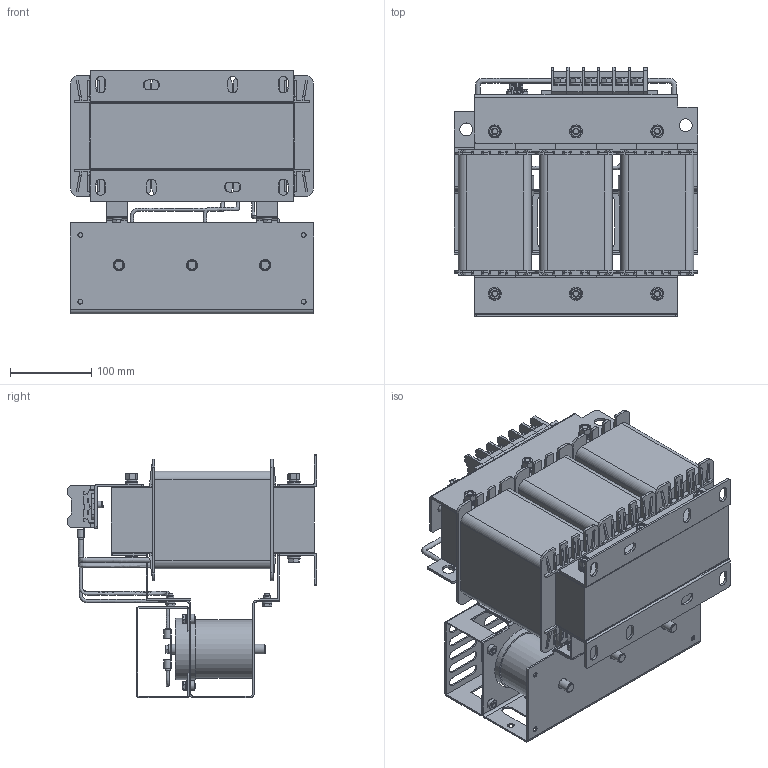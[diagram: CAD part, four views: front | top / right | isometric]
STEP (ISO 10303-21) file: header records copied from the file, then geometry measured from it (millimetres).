
FILE_DESCRIPTION(('STEP AP203'), '1');
FILE_NAME('蔓躅漤铋 耔眢耥 翳朦蝠 _ ISINOF-30_36-6', '', ('UNSPECIFIED'), ('UNSPECIFIED'), 'C3D Converter', 'C3D Toolkit', '');
FILE_SCHEMA(('CONFIG_CONTROL_DESIGN'));
Length unit declared in the file: millimetre
Products named in the file (44): ISINOF-30/36-6; DW16-06-02跚X2\041B04270423\X0\; G50X80X150; LРНЦ吭X2\04560415\X0\; LРНЦ吭X2\04560415\X0\1; RNB14-6S; 吒X2\0425\X0\72-95; 琵X2\04370418042D0458042C\X0\ ; ёЗЧУ; ї琵X2\041E\X0\做зЧУKV223-2P; А降еМх50-250-1; БщЅЗВЭЛЁM8; ИэПаМъРѕ250-250-80ЈЁ50-100; ЙПјРјю НЁУГ 50-100; ЙПјРјю50-100\X2\040Ô0448\X0\¶ЛЧУЦ§іЕ; ПВјРјю НЁУГ50-100; ПЯИ¦36A; plain washers--product grade c gb_GB_FASTENER_WASHER_SMWC 8; spring lock washers--normal type gb_GB_FASTENER_WASHER_SW 8; hexagon nuts grade c gb_GB_FASTENER_NUT_SNC1 M8-N; Cable_1-ХэПТІЁВЛІЁ琵X2\04370457211604160447\X0\SKS-SF-0036-6A9ЈЇ05; 琵X2\043704100412\X0\^Cable_1-ХэПТІЁВЛІЁ琵X2\04370457211604160447\X0\SKS-SF-0036-6A9ЈЇ05; Cable_2-ХэПТІЁВЛІЁ琵X2\04370457211604160447\X0\SKS-SF-0036-6A9ЈЇ05-001; 琵X2\043704100412\X0\^Cable_2-ХэПТІЁВЛІЁ琵X2\04370457211604160447\X0\SKS-SF-0036-6A9ЈЇ05-001; Cable_3-ХэПТІЁВЛІЁ琵X2\04370457211604160447\X0\SKS-SF-0036-6A9ЈЇ05; 琵X2\043704100412\X0\^Cable_3-ХэПТІЁВЛІЁ琵X2\04370457211604160447\X0\SKS-SF-0036-6A9ЈЇ05; Cable_4-ХэПТІЁВЛІЁ琵X2\04370457211604160447\X0\SKS-SF-0036-6A9ЈЇ05; 琵X2\043704100412\X0\^Cable_4-ХэПТІЁВЛІЁ琵X2\04370457211604160447\X0\SKS-SF-0036-6A9ЈЇ05; Harness_4-ХэПТІЁВЛІЁ琵X2\04370457211604160447\X0\SKS-SF-0036-6A9ЈЇ05; 琵X2\043704100412\X0\^Harness_4-ХэПТІЁВЛІЁ琵X2\04370457211604160447\X0\SKS-SF-0036-6A9ЈЇ05; Cable_5-ХэПТІЁВЛІЁ琵X2\04370457211604160447\X0\SKS-SF-0036-6A9ЈЇ05; 琵X2\043704100412\X0\^Cable_5-ХэПТІЁВЛІЁ琵X2\04370457211604160447\X0\SKS-SF-0036-6A9ЈЇ05; plain washers--product grade c gb_GB_FASTENER_WASHER_SMWC 6; hex head bolts-full thread grade c gb_GB_FASTENER_BOLT_HHBFTC M6X12-N; Cable_6-ХэПТІЁВЛІЁ琵X2\04370457211604160447\X0\SKS-SF-0036-6A9ЈЇ05; 琵X2\043704100412\X0\^Cable_6-ХэПТІЁВЛІЁ琵X2\04370457211604160447\X0\SKS-SF-0036-6A9ЈЇ05; Cable_7-ХэПТІЁВЛІЁ琵X2\04370457211604160447\X0\SKS-SF-0036-6A9ЈЇ05; 琵X2\043704100412\X0\^Cable_7-ХэПТІЁВЛІЁ琵X2\04370457211604160447\X0\SKS-SF-0036-6A9ЈЇ05; Cable_8-ХэПТІЁВЛІЁ琵X2\04370457211604160447\X0\SKS-SF-0036-6A9ЈЇ05; 琵X2\043704100412\X0\^Cable_8-ХэПТІЁВЛІЁ琵X2\04370457211604160447\X0\SKS-SF-0036-6A9ЈЇ05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
Assembly tree (133 placements, depth 3):
  ISINOF-30/36-6
    DW16-06-02跚X2\041B04270423\X0\
    G50X80X150  x3
    LРНЦ吭X2\04560415\X0\  x2
    LРНЦ吭X2\04560415\X0\1  x2
    RNB14-6S  x12
    吒X2\0425\X0\72-95  x3
    琵X2\04370418042D0458042C\X0\ 
    ёЗЧУ
    ї琵X2\041E\X0\做зЧУKV223-2P
    А降еМх50-250-1  x6
    БщЅЗВЭЛЁM8  x6
    ИэПаМъРѕ250-250-80ЈЁ50-100
    ЙПјРјю НЁУГ 50-100
    ЙПјРјю50-100\X2\040Ô0448\X0\¶ЛЧУЦ§іЕ
    ПВјРјю НЁУГ50-100  x2
    ПЯИ¦36A  x3
    plain washers--product grade c gb_GB_FASTENER_WASHER_SMWC 8  x24
    spring lock washers--normal type gb_GB_FASTENER_WASHER_SW 8  x6
    hexagon nuts grade c gb_GB_FASTENER_NUT_SNC1 M8-N  x6
    Cable_1-ХэПТІЁВЛІЁ琵X2\04370457211604160447\X0\SKS-SF-0036-6A9ЈЇ05
      琵X2\043704100412\X0\^Cable_1-ХэПТІЁВЛІЁ琵X2\04370457211604160447\X0\SKS-SF-0036-6A9ЈЇ05
    Cable_2-ХэПТІЁВЛІЁ琵X2\04370457211604160447\X0\SKS-SF-0036-6A9ЈЇ05-001
      琵X2\043704100412\X0\^Cable_2-ХэПТІЁВЛІЁ琵X2\04370457211604160447\X0\SKS-SF-0036-6A9ЈЇ05-001
    Cable_3-ХэПТІЁВЛІЁ琵X2\04370457211604160447\X0\SKS-SF-0036-6A9ЈЇ05
      琵X2\043704100412\X0\^Cable_3-ХэПТІЁВЛІЁ琵X2\04370457211604160447\X0\SKS-SF-0036-6A9ЈЇ05
    Cable_4-ХэПТІЁВЛІЁ琵X2\04370457211604160447\X0\SKS-SF-0036-6A9ЈЇ05
      琵X2\043704100412\X0\^Cable_4-ХэПТІЁВЛІЁ琵X2\04370457211604160447\X0\SKS-SF-0036-6A9ЈЇ05
    Harness_4-ХэПТІЁВЛІЁ琵X2\04370457211604160447\X0\SKS-SF-0036-6A9ЈЇ05
      琵X2\043704100412\X0\^Harness_4-ХэПТІЁВЛІЁ琵X2\04370457211604160447\X0\SKS-SF-0036-6A9ЈЇ05
    Cable_5-ХэПТІЁВЛІЁ琵X2\04370457211604160447\X0\SKS-SF-0036-6A9ЈЇ05
      琵X2\043704100412\X0\^Cable_5-ХэПТІЁВЛІЁ琵X2\04370457211604160447\X0\SKS-SF-0036-6A9ЈЇ05
    plain washers--product grade c gb_GB_FASTENER_WASHER_SMWC 6  x14
    hex head bolts-full thread grade c gb_GB_FASTENER_BOLT_HHBFTC M6X12-N  x15
    Cable_6-ХэПТІЁВЛІЁ琵X2\04370457211604160447\X0\SKS-SF-0036-6A9ЈЇ05
      琵X2\043704100412\X0\^Cable_6-ХэПТІЁВЛІЁ琵X2\04370457211604160447\X0\SKS-SF-0036-6A9ЈЇ05
    Cable_7-ХэПТІЁВЛІЁ琵X2\04370457211604160447\X0\SKS-SF-0036-6A9ЈЇ05
      琵X2\043704100412\X0\^Cable_7-ХэПТІЁВЛІЁ琵X2\04370457211604160447\X0\SKS-SF-0036-6A9ЈЇ05
    Cable_8-ХэПТІЁВЛІЁ琵X2\04370457211604160447\X0\SKS-SF-0036-6A9ЈЇ05
      琵X2\043704100412\X0\^Cable_8-ХэПТІЁВЛІЁ琵X2\04370457211604160447\X0\SKS-SF-0036-6A9ЈЇ05
    Cable_9-ХэПТІЁВЛІЁ琵X2\04370457211604160447\X0\SKS-SF-0036-6A9ЈЇ05
      琵X2\043704100412\X0\^Cable_9-ХэПТІЁВЛІЁ琵X2\04370457211604160447\X0\SKS-SF-0036-6A9ЈЇ05
    琵X2\0428\X0\崤X2\043A\X0\
    МщЦЅ
Bounding box: 300 x 307 x 300 mm (x, y, z)
Volume: 8646415 mm3; surface area: 1831023.1 mm2
Topology: 189 solids, 189 shells, 3305 faces, 8184 edges, 5376 vertices
Faces by surface type: plane 2385, cylinder 661, cone 217, bspline 36, torus 6
Full cylindrical faces by diameter (mm): 3 x2, 3.8 x2, 4 x4, 6 x55, 6.2 x12, 6.4 x12, 6.6 x14, 6.647 x6, 8 x13, 8.68 x6, 9 x24, 10.7 x1, 11 x29, 12 x21, 12.5 x6, 12.88 x6, 14 x3, 16 x38, 18.2 x1, 19 x1, 20 x1, 72 x6, 76 x3, 80 x3
Entity records: 87323 total; most frequent: CARTESIAN_POINT 23581, ORIENTED_EDGE 9042, DIRECTION 8939, EDGE_CURVE 4521, LINE 3565, VECTOR 3565, VERTEX_POINT 3092, AXIS2_PLACEMENT_3D 2687
